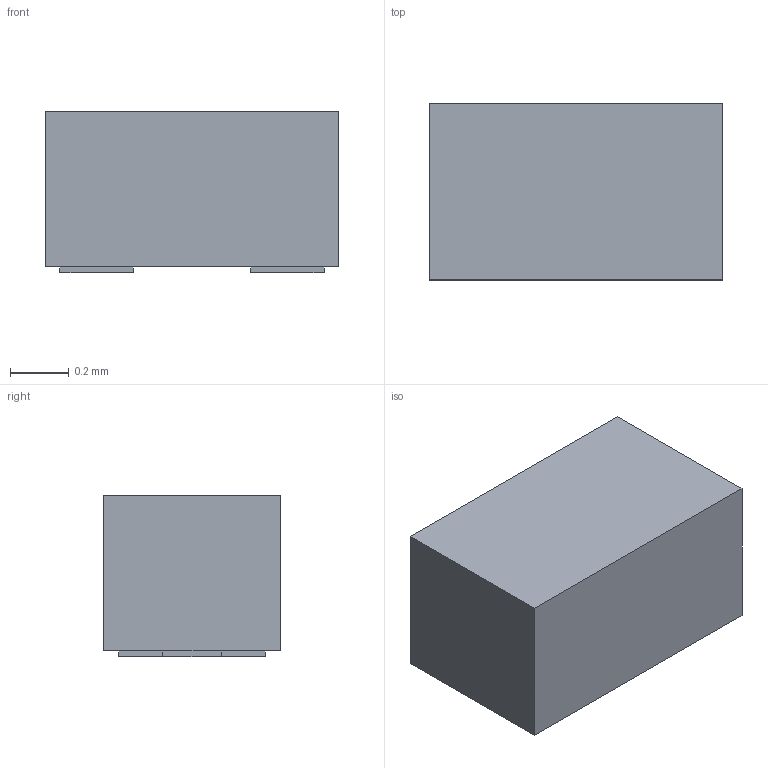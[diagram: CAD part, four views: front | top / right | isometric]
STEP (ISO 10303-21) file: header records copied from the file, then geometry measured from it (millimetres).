
FILE_DESCRIPTION (( 'STEP AP214' ), '1' );
FILE_NAME ( 'DIODFN3_100X60X55L25X15.STEP', '2021-10-06T06:48:58', ( '' ), ( '' ), '', '©2017 PCB Libraries, Inc.', '' );
FILE_SCHEMA (( 'AUTOMOTIVE_DESIGN' ));
Length unit declared in the file: millimetre
Products named in the file (1): DIODFN3_100X60X55L25X15
Bounding box: 1 x 0.6 x 0.55 mm (x, y, z)
Volume: 0.3 mm3; surface area: 3.4 mm2
Topology: 4 solids, 4 shells, 24 faces, 48 edges, 32 vertices
Faces by surface type: plane 24
Entity records: 740 total; most frequent: CARTESIAN_POINT 105, DIRECTION 98, ORIENTED_EDGE 96, VECTOR 48, LINE 48, EDGE_CURVE 48, VERTEX_POINT 32, STYLED_ITEM 29
